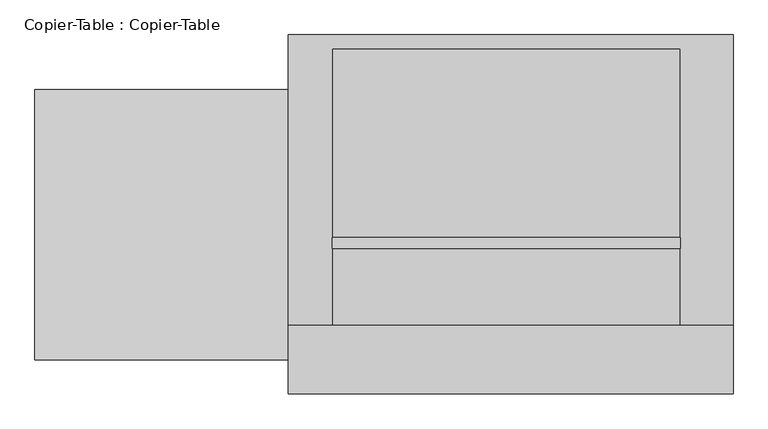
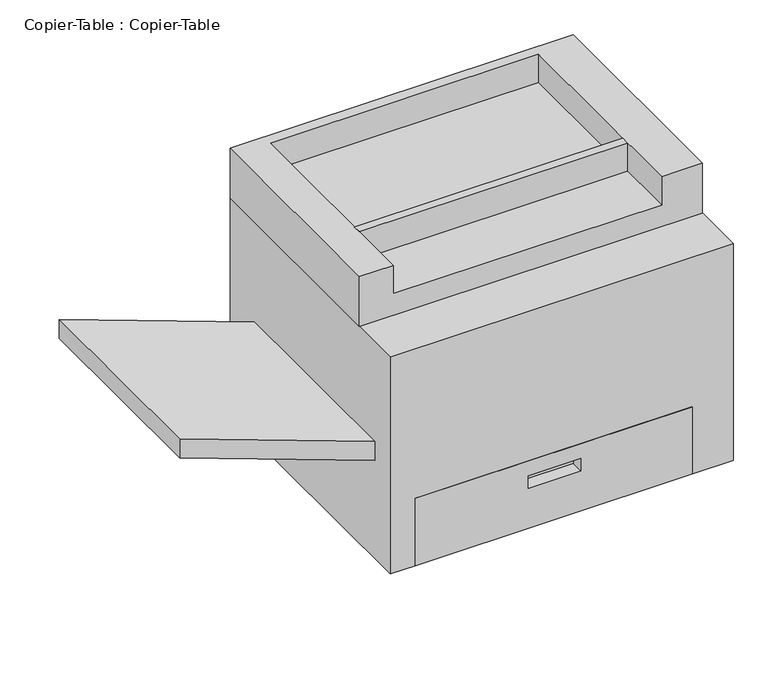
"""IFC4 building model written with IfcOpenShell, lengths in millimetres: proxy geometry, Copier-Table : Copier-Table."""

from ifc_helpers import new_model, si_unit, frame, origin, place, context, project, spatial, polyline, outline, extrude, faceted_brep, source, transform, mapped, element, save


def copier_table_copier_table_bccdaa3d(model_context):
    return source(origin(), model_context, "Body", "SolidModel", [
        faceted_brep([(328.0345418, 240.5689468, 337.4813568), (328.0345418, -191.2310532, 337.4813568), (328.0345418, -191.2310532, 83.4813568), (328.0345418, 240.5689468, 83.4813568), (328.0345418, -32.5287944, 316.7670645), (328.0345418, 69.0712056, 316.7670645), (328.0345418, 69.0712056, 291.3670645), (328.0345418, -32.5287944, 291.3670645), (277.2345418, 240.5689468, 337.4813568), (277.2345418, 240.5689468, 83.4813568), (277.2345418, -191.2310532, 83.4813568), (277.2345418, -191.2310532, 337.4813568), (302.6345418, 69.0712056, 316.7670645), (302.6345418, -32.5287944, 316.7670645), (302.6345418, -32.5287944, 291.3670645), (302.6345418, 69.0712056, 291.3670645)], [[[0, 1, 2, 3], [4, 5, 6, 7]], [[8, 9, 10, 11]], [[1, 0, 8, 11]], [[2, 1, 11, 10]], [[3, 2, 10, 9]], [[0, 3, 9, 8]], [[12, 13, 14, 15]], [[13, 12, 5, 4]], [[14, 13, 4, 7]], [[15, 14, 7, 6]], [[12, 15, 6, 5]]]),
        extrude(outline(polyline([(337.4813568, -708.262834), (200.6659009, -332.3654582), (239.2353746, -332.3654582), (376.0508306, -708.262834), (337.4813568, -708.262834)])), frame((0.0, -191.2310532, 0.0), z_axis=(0.0, 1.0, 0.0), x_axis=(0.0, 0.0, 1.0)), (0.0, 0.0, 1.0), 400.9115472),
        extrude(outline(polyline([(249.314028, -26.1310532), (-267.2959958, -26.1310532), (-267.2959958, -10.0577181), (249.314028, -10.0577181), (249.314028, -26.1310532)])), frame((0.0, 0.0, 486.340352), z_axis=(0.0, 0.0, 1.0), x_axis=(1.0, 0.0, 0.0)), (0.0, 0.0, 1.0), 57.3042753),
        faceted_brep([(249.314028, -242.0310532, 0.0), (249.314028, -242.0310532, 137.2446273), (-284.085972, -242.0310532, 137.2446273), (-284.085972, -242.0310532, 0.0), (-66.7741493, -242.0310532, 106.503772), (34.8258507, -242.0310532, 106.503772), (34.8258507, -242.0310532, 81.103772), (-66.7741493, -242.0310532, 81.103772), (249.314028, -191.2310532, 0.0), (-284.085972, -191.2310532, 0.0), (-284.085972, -191.2310532, 137.2446273), (249.314028, -191.2310532, 137.2446273), (34.8258507, -216.6310532, 106.503772), (-66.7741493, -216.6310532, 106.503772), (-66.7741493, -216.6310532, 81.103772), (34.8258507, -216.6310532, 81.103772)], [[[0, 1, 2, 3], [4, 5, 6, 7]], [[8, 9, 10, 11]], [[1, 0, 8, 11]], [[2, 1, 11, 10]], [[3, 2, 10, 9]], [[0, 3, 9, 8]], [[12, 13, 14, 15]], [[13, 12, 5, 4]], [[14, 13, 4, 7]], [[15, 14, 7, 6]], [[12, 15, 6, 5]]]),
        faceted_brep([(328.0345418, 291.3689468, 543.6446273), (-332.3654582, 291.3689468, 543.6446273), (-332.3654582, -139.9052479, 543.6446273), (-267.2959958, -139.9052479, 543.6446273), (-267.2959958, 271.1108348, 543.6446273), (249.314028, 271.1108348, 543.6446273), (249.314028, -139.9052479, 543.6446273), (328.0345418, -139.9052479, 543.6446273), (328.0345418, 291.3689468, 442.0446273), (328.0345418, -139.9052479, 442.0446273), (-332.3654582, -139.9052479, 442.0446273), (-332.3654582, 291.3689468, 442.0446273), (249.314028, -139.9052479, 486.340352), (-267.2959958, -139.9052479, 486.340352), (249.314028, 271.1108348, 486.340352), (-267.2959958, 271.1108348, 486.340352)], [[[0, 1, 2, 3, 4, 5, 6, 7]], [[8, 9, 10, 11]], [[1, 0, 8, 11]], [[2, 1, 11, 10]], [[10, 9, 7, 6, 12, 13, 3, 2]], [[0, 7, 9, 8]], [[14, 15, 13, 12]], [[15, 14, 5, 4]], [[15, 4, 3, 13]], [[5, 14, 12, 6]]]),
        faceted_brep([(328.0345418, 291.3689468, 442.0446273), (-332.3654582, 291.3689468, 442.0446273), (-332.3654582, -242.0310532, 442.0446273), (328.0345418, -242.0310532, 442.0446273), (328.0345418, 291.3689468, 0.0), (328.0345418, -242.0310532, 0.0), (249.314028, -242.0310532, 0.0), (249.314028, -191.2310532, 0.0), (-284.085972, -191.2310532, 0.0), (-284.085972, -242.0310532, 0.0), (-332.3654582, -242.0310532, 0.0), (-332.3654582, 291.3689468, 0.0), (-284.085972, -242.0310532, 137.2446273), (249.314028, -242.0310532, 137.2446273), (328.0345418, -191.2310532, 337.4813568), (328.0345418, 240.5689468, 337.4813568), (328.0345418, 240.5689468, 83.4813568), (328.0345418, -191.2310532, 83.4813568), (-284.085972, -191.2310532, 137.2446273), (249.314028, -191.2310532, 83.4813568), (249.314028, -191.2310532, 137.2446273), (249.314028, 240.5689468, 337.4813568), (249.314028, -191.2310532, 337.4813568), (249.314028, -191.2310532, 137.2446273), (249.314028, -191.2310532, 83.4813568), (249.314028, 240.5689468, 83.4813568)], [[[0, 1, 2, 3]], [[4, 5, 6, 7, 8, 9, 10, 11]], [[1, 0, 4, 11]], [[2, 1, 11, 10]], [[3, 2, 10, 9, 12, 13, 6, 5]], [[0, 3, 5, 4], [14, 15, 16, 17]], [[18, 8, 7, 19, 20]], [[8, 18, 12, 9]], [[13, 20, 19, 7, 6]], [[18, 20, 13, 12]], [[21, 22, 23, 24, 25]], [[22, 21, 15, 14]], [[22, 14, 17, 24, 23]], [[25, 24, 17, 16]], [[21, 25, 16, 15]]]),
    ])


if __name__ == "__main__":
    model = new_model("IFC4")
    model_context = context("Model", 3, world=origin())
    ifc_project = project(units=[si_unit("LENGTHUNIT", "METRE", prefix="MILLI")], contexts=[model_context])
    site = spatial("IfcSite", under=ifc_project)
    building = spatial("IfcBuilding", under=site)
    placement = place(None, origin())
    copier_table_copier_table_shape = copier_table_copier_table_bccdaa3d(model_context)
    element("IfcBuildingElementProxy", 1, Name="Copier-Table : Copier-Table", ObjectType="Copier-Table : Copier-Table", at=placement, inside=building, context=model_context, shape_type="MappedRepresentation", body=[
        mapped(copier_table_copier_table_shape, transform((0.0, 0.0, 0.0), x_axis=(1.0, 0.0, 0.0), y_axis=(0.0, 1.0, 0.0), z_axis=(0.0, 0.0, 1.0))),
    ])
    save(model, "model.ifc")
